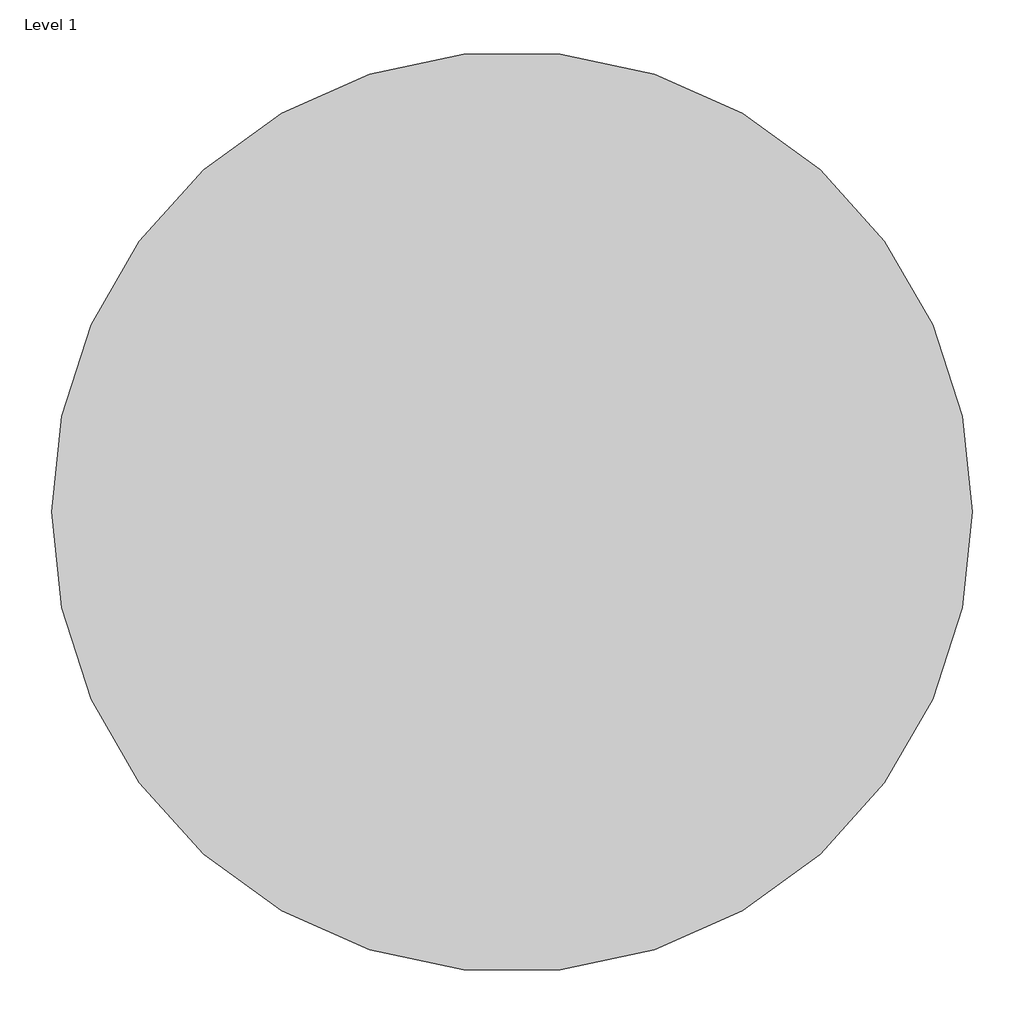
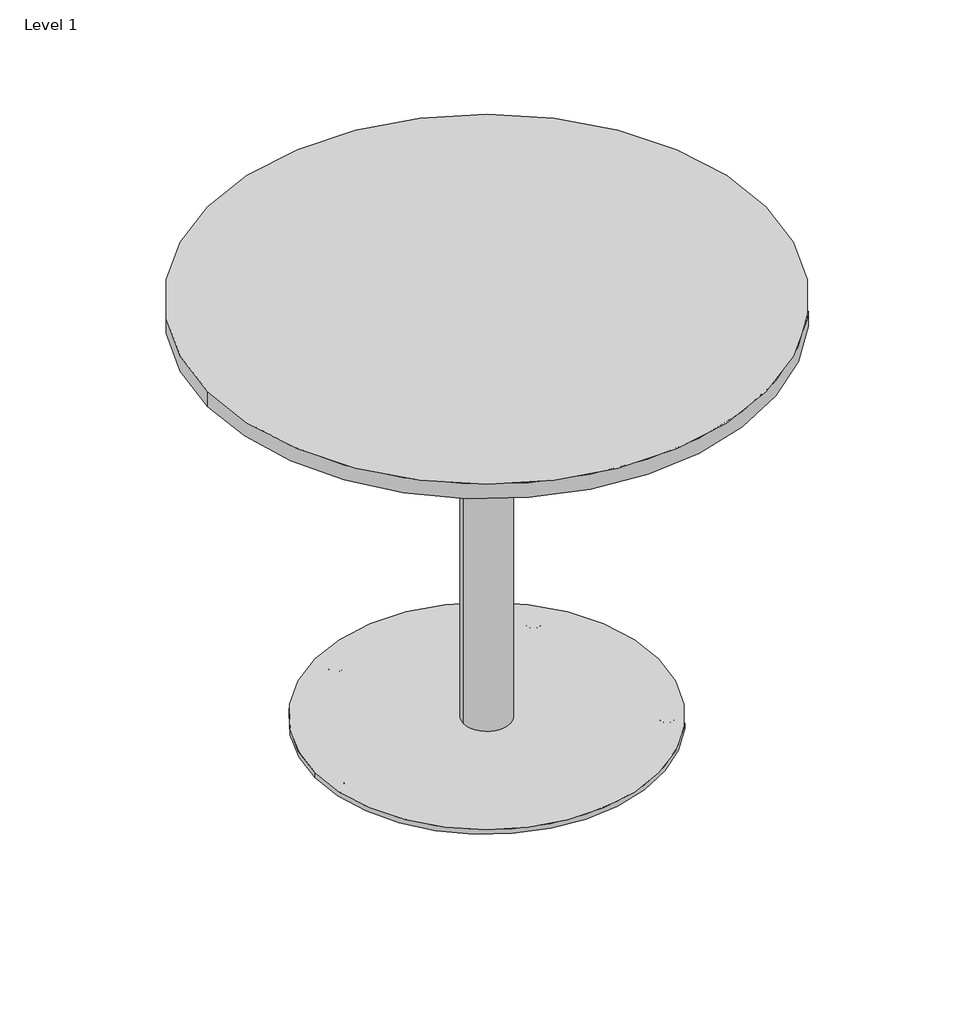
# One storey: 1 furniture element.
"""IFC4 building model written with IfcOpenShell, lengths in millimetres."""

import ifcopenshell
import ifcopenshell.guid

model = None  # the IFC model being written
_history = None  # IfcOwnerHistory: only IFC2X3 demands one
_inside = {}  # id of a spatial element -> (the spatial element, [elements in it])
_under = {}  # id of a project, library or spatial element -> (it, [spatial elements below it])
_declared = {}  # id of a project -> (the project, [libraries it declares])
_typed = {}  # id of a type object -> (the type object, [elements of that type])
_made_of = {}  # id of a material, layer set ... -> (it, [elements and type objects made of it])


def new_model(schema):
    """Start an empty IFC model of exactly this schema.

    Asked for "IFC4X3", IfcOpenShell would pick the latest addendum, in which some entities
    have other attributes; the version numbers below select the first issue.
    IFC2X3 requires an IfcOwnerHistory on every rooted entity: one is made here for all.
    """
    global model, _history
    if schema == "IFC4X3":
        model = ifcopenshell.file(schema_version=(4, 3, 0, 0))
    else:
        model = ifcopenshell.file(schema=schema)
    _inside.clear()
    _under.clear()
    _declared.clear()
    _typed.clear()
    _made_of.clear()
    _history = None
    if model.schema == "IFC2X3":
        org = make("IfcOrganization", Name="unknown")
        user = make(
            "IfcPersonAndOrganization",
            ThePerson=make("IfcPerson", FamilyName="unknown"),
            TheOrganization=org,
        )
        app = make(
            "IfcApplication",
            ApplicationDeveloper=org,
            Version="unknown",
            ApplicationFullName="unknown",
            ApplicationIdentifier="unknown",
        )
        _history = make(
            "IfcOwnerHistory",
            OwningUser=user,
            OwningApplication=app,
            ChangeAction="ADDED",
            CreationDate=0,
        )
    return model


def make(cls, **values):
    """One entity of the class cls with the attributes given. An attribute that is None is left unset."""
    return model.create_entity(
        cls, **{name: value for name, value in values.items() if value is not None}
    )


def rooted(cls, **values):
    """An entity with a GlobalId (a new one), such as an element, a storey or a relation."""
    return make(cls, GlobalId=ifcopenshell.guid.new(), OwnerHistory=_history, **values)


def si_unit(unit_type, name, prefix=None):
    """IfcSIUnit, for example si_unit("LENGTHUNIT", "METRE", prefix="MILLI")."""
    return make("IfcSIUnit", UnitType=unit_type, Prefix=prefix, Name=name)


def assignment(units):
    """IfcUnitAssignment: the units of a project."""
    return None if units is None else make("IfcUnitAssignment", Units=units)


def point(xyz):
    """IfcCartesianPoint."""
    return None if xyz is None else make("IfcCartesianPoint", Coordinates=xyz)


def direction(xyz):
    """IfcDirection."""
    return None if xyz is None else make("IfcDirection", DirectionRatios=xyz)


def frame(location, z_axis=None, x_axis=None):
    """IfcAxis2Placement3D, a coordinate frame: its origin and axes. An axis left out is left unset."""
    return make(
        "IfcAxis2Placement3D",
        Location=point(location),
        Axis=direction(z_axis),
        RefDirection=direction(x_axis),
    )


def frame_2d(location, x_axis=None):
    """IfcAxis2Placement2D, a coordinate frame in the plane: its origin and x axis."""
    return make(
        "IfcAxis2Placement2D", Location=point(location), RefDirection=direction(x_axis)
    )


def origin():
    """The frame at (0, 0, 0) with its axes left unset."""
    return frame((0.0, 0.0, 0.0))


def origin_2d():
    """The frame at (0, 0) in the plane with its x axis left unset."""
    return frame_2d((0.0, 0.0))


def place(relative_to, where):
    """IfcLocalPlacement: puts the frame where relative to a parent placement (None: the world)."""
    return make(
        "IfcLocalPlacement", PlacementRelTo=relative_to, RelativePlacement=where
    )


def context(
    kind, dimensions, precision=None, world=None, true_north=None, identifier=None
):
    """IfcGeometricRepresentationContext, for example the 3D "Model" context."""
    return make(
        "IfcGeometricRepresentationContext",
        ContextIdentifier=identifier,
        ContextType=kind,
        CoordinateSpaceDimension=dimensions,
        Precision=precision,
        WorldCoordinateSystem=world,
        TrueNorth=true_north,
    )


def project(units=None, contexts=None):
    """IfcProject with its units and contexts."""
    return rooted(
        "IfcProject",
        Name="project",
        RepresentationContexts=contexts,
        UnitsInContext=assignment(units),
    )


def spatial(cls, under=None, at=None, **own):
    """A site, building, storey or space (cls), placed at a placement, below another one or the project."""
    s = rooted(cls, ObjectPlacement=at, **own)
    if under is not None:
        _under.setdefault(under.id(), (under, []))[1].append(s)
    return s


def polyline(points):
    """IfcPolyline through the points."""
    return make("IfcPolyline", Points=[point(p) for p in points])


def circle_curve(where, radius):
    """IfcCircle in the frame where."""
    return make("IfcCircle", Position=where, Radius=radius)


def ellipse_curve(where, semi_axis1, semi_axis2):
    """IfcEllipse in the frame where."""
    return make(
        "IfcEllipse", Position=where, SemiAxis1=semi_axis1, SemiAxis2=semi_axis2
    )


def trimmed(basis, trim1, trim2, sense, master):
    """IfcTrimmedCurve: the piece of a basis curve between two trims."""
    return make(
        "IfcTrimmedCurve",
        BasisCurve=basis,
        Trim1=trim1,
        Trim2=trim2,
        SenseAgreement=sense,
        MasterRepresentation=master,
    )


def segment(curve, same_sense, transition):
    """IfcCompositeCurveSegment."""
    return make(
        "IfcCompositeCurveSegment",
        Transition=transition,
        SameSense=same_sense,
        ParentCurve=curve,
    )


def composite_curve(segments, self_intersect=None):
    """IfcCompositeCurve: segments joined end to end."""
    return make("IfcCompositeCurve", Segments=segments, SelfIntersect=self_intersect)


def outline(outer, holes=None, kind="AREA"):
    """IfcArbitraryClosedProfileDef: a profile drawn as a closed curve; with holes, ...WithVoids."""
    if holes is None:
        return make("IfcArbitraryClosedProfileDef", ProfileType=kind, OuterCurve=outer)
    return make(
        "IfcArbitraryProfileDefWithVoids",
        ProfileType=kind,
        OuterCurve=outer,
        InnerCurves=holes,
    )


def extrude(swept, where, along, depth):
    """IfcExtrudedAreaSolid: the profile swept, set in the frame where, extruded along a direction by depth."""
    return make(
        "IfcExtrudedAreaSolid",
        SweptArea=swept,
        Position=where,
        ExtrudedDirection=direction(along),
        Depth=depth,
    )


def shape(context_of_items, identifier, shape_type, items):
    """IfcShapeRepresentation: the items that make up one representation, for example the "Body"."""
    return make(
        "IfcShapeRepresentation",
        ContextOfItems=context_of_items,
        RepresentationIdentifier=identifier,
        RepresentationType=shape_type,
        Items=items,
    )


def source(mapping_origin, context_of_items, identifier, shape_type, items):
    """IfcRepresentationMap: a shape defined once, which mapped items show again and again."""
    return make(
        "IfcRepresentationMap",
        MappingOrigin=mapping_origin,
        MappedRepresentation=shape(context_of_items, identifier, shape_type, items),
    )


def transform(
    local_origin,
    x_axis=None,
    y_axis=None,
    z_axis=None,
    scale=None,
    scale2=None,
    scale3=None,
    uniform=True,
):
    """IfcCartesianTransformationOperator3D, or its non-uniform kind. x_axis, y_axis, z_axis: its Axis1, 2, 3."""
    if uniform:
        return make(
            "IfcCartesianTransformationOperator3D",
            Axis1=direction(x_axis),
            Axis2=direction(y_axis),
            LocalOrigin=point(local_origin),
            Scale=scale,
            Axis3=direction(z_axis),
        )
    return make(
        "IfcCartesianTransformationOperator3DnonUniform",
        Axis1=direction(x_axis),
        Axis2=direction(y_axis),
        LocalOrigin=point(local_origin),
        Scale=scale,
        Axis3=direction(z_axis),
        Scale2=scale2,
        Scale3=scale3,
    )


def mapped(mapping_source, mapping_target):
    """IfcMappedItem: shows the shape of a source again, moved by a transform."""
    return make(
        "IfcMappedItem", MappingSource=mapping_source, MappingTarget=mapping_target
    )


def made_of(thing, what):
    """Note that an element or type object is made of a material, layer set ...; save() writes the relation."""
    if what is not None:
        _made_of.setdefault(what.id(), (what, []))[1].append(thing)
    return thing


def element(
    cls,
    number,
    at=None,
    inside=None,
    cuts=None,
    type_object=None,
    material=None,
    context=None,
    identifier="Body",
    shape_type=None,
    held_by="IfcProductDefinitionShape",
    body=None,
    shapes=None,
    **own,
):
    """One element of the class cls, such as IfcWall. Its Tag is "e" and its number.

    at: its placement. inside: the storey or other place that contains it. cuts: it is an
    opening in that element (IfcRelVoidsElement). A single representation is given by context,
    identifier, shape_type and body (its items); several are given by shapes. held_by: the class
    of the entity that holds the representations. save() writes the other relations.
    """
    e = rooted(cls, Tag="e%d" % number, ObjectPlacement=at, **own)
    if body is not None:
        shapes = [shape(context, identifier, shape_type, body)]
    if shapes is not None:
        e.Representation = make(held_by, Representations=shapes)
    if inside is not None:
        _inside.setdefault(inside.id(), (inside, []))[1].append(e)
    if cuts is not None:
        rooted(
            "IfcRelVoidsElement", RelatingBuildingElement=cuts, RelatedOpeningElement=e
        )
    if type_object is not None:
        _typed.setdefault(type_object.id(), (type_object, []))[1].append(e)
    return made_of(e, material)


def aggregate(whole, parts):
    """IfcRelAggregates: a whole, such as a stair, and the parts it consists of."""
    return rooted("IfcRelAggregates", RelatingObject=whole, RelatedObjects=parts)


def save(model, path):
    """Write the relations noted so far, then the file.

    IfcRelAggregates (storeys below a building ...), IfcRelContainedInSpatialStructure (elements
    in a storey), IfcRelDefinesByType, IfcRelAssociatesMaterial and IfcRelDeclares: one each for
    every whole, place, type object, material and project.
    """
    for whole, parts in _under.values():
        aggregate(whole, parts)
    for where, things in _inside.values():
        rooted(
            "IfcRelContainedInSpatialStructure",
            RelatedElements=things,
            RelatingStructure=where,
        )
    for kind, things in _typed.values():
        rooted("IfcRelDefinesByType", RelatedObjects=things, RelatingType=kind)
    for what, things in _made_of.values():
        rooted("IfcRelAssociatesMaterial", RelatedObjects=things, RelatingMaterial=what)
    for by, libraries in _declared.values():
        rooted("IfcRelDeclares", RelatingContext=by, RelatedDefinitions=libraries)
    model.write(path)


def plane_surface(at):
    """IfcPlane: the flat surface through the origin of the frame at, square to its z axis."""
    return make("IfcPlane", Position=at)


def cylinder_surface(at, radius):
    """IfcCylindricalSurface: all points at the distance radius from the z axis of the frame at."""
    return make("IfcCylindricalSurface", Position=at, Radius=radius)


def revolved_surface(curve, axis_point, axis_direction):
    """IfcSurfaceOfRevolution: the curve turned about the line through axis_point along axis_direction."""
    return make(
        "IfcSurfaceOfRevolution",
        SweptCurve=make("IfcArbitraryOpenProfileDef", ProfileType="CURVE", Curve=curve),
        AxisPosition=make("IfcAxis1Placement", Location=point(axis_point), Axis=direction(axis_direction)),
    )


def advanced_brep(points, edges, surfaces, faces):
    """IfcAdvancedBrep: a solid bounded by faces that lie on surfaces and meet in shared edges.

    An edge is (start, end): straight between two places in points (the first is 0);
    or (start, end, curve); or (start, end, curve, False) where it runs against its curve.
    A face is (place in surfaces, loops), or (place, loops, False) where it looks against
    its surface's normal. A loop lists edges by number (the first is 1), with a minus sign
    where the edge is run from its end to its start. The first loop is the outer one.
    """
    corners = [point(p) for p in points]
    vertices = [make("IfcVertexPoint", VertexGeometry=c) for c in corners]
    made = []
    for start, end, *more in edges:
        made.append(
            make(
                "IfcEdgeCurve",
                EdgeStart=vertices[start],
                EdgeEnd=vertices[end],
                EdgeGeometry=more[0] if more else make("IfcPolyline", Points=[corners[start], corners[end]]),
                SameSense=more[1] if len(more) > 1 else True,
            )
        )
    hull = []
    for where, loops, *sense in faces:
        bounds = []
        for j, loop in enumerate(loops):
            ring = [make("IfcOrientedEdge", EdgeElement=made[abs(k) - 1], Orientation=k > 0) for k in loop]
            bounds.append(
                make(
                    "IfcFaceOuterBound" if j == 0 else "IfcFaceBound",
                    Bound=make("IfcEdgeLoop", EdgeList=ring),
                    Orientation=True,
                )
            )
        hull.append(make("IfcAdvancedFace", Bounds=bounds, FaceSurface=surfaces[where], SameSense=sense[0] if sense else True))
    return make("IfcAdvancedBrep", Outer=make("IfcClosedShell", CfsFaces=hull))


def furniture_2d7424ca(model_context):
    return source(origin(), model_context, "Body", "SolidModel", [
        advanced_brep(
        [(222.7428677, -113.4988573, 12.0), (219.5466225, -111.1766493, 12.0), (225.9391129, -115.8210653, 12.0), (228.6860049, -117.816799, 0.0), (216.7997306, -109.1809156, 0.0), (222.7428677, -113.4988573, 0.0), (232.7310899, -120.7557252, 5.0), (212.7546456, -106.2419894, 5.0), (232.7310899, -120.7557252, 7.0000003), (212.7546456, -106.2419894, 7.0000003), (225.9391129, -115.8210653, 7.0000003), (219.5466225, -111.1766493, 7.0000003)],
        [
            (0, 1),
            (1, 2, circle_curve(frame((222.7428677, -113.4988573, 12.0), z_axis=(0.0, 0.0, 1.0), x_axis=(-0.8090170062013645, 0.5877852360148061, 0.0)), 3.9507763)),
            (2, 0),
            (2, 1, circle_curve(frame((222.7428677, -113.4988573, 12.0), z_axis=(0.0, 0.0, 1.0), x_axis=(-0.8090170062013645, 0.5877852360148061, 0.0)), 3.9507763)),
            (3, 4, circle_curve(frame((222.7428677, -113.4988573, 0.0), z_axis=(0.0, 0.0, -1.0), x_axis=(-0.8090170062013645, 0.5877852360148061, 0.0)), 7.3461214)),
            (4, 5),
            (5, 3),
            (4, 3, circle_curve(frame((222.7428677, -113.4988573, 0.0), z_axis=(0.0, 0.0, -1.0), x_axis=(-0.8090170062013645, 0.5877852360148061, 0.0)), 7.3461214)),
            (6, 7, circle_curve(frame((222.7428677, -113.4988573, 5.0), z_axis=(0.0, 0.0, -1.0), x_axis=(-0.8090170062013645, 0.5877852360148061, 0.0)), 12.3461214)),
            (7, 4, circle_curve(frame((216.7997306, -109.1809156, 5.0), z_axis=(-0.5877852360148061, -0.8090170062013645, 0.0), x_axis=(-0.8090170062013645, 0.5877852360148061, 0.0)), 5.0)),
            (3, 6, circle_curve(frame((228.6860049, -117.816799, 5.0), z_axis=(-0.5877852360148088, -0.8090170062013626, 0.0), x_axis=(0.8090170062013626, -0.5877852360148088, 0.0)), 5.0)),
            (7, 6, circle_curve(frame((222.7428677, -113.4988573, 5.0), z_axis=(0.0, 0.0, -1.0), x_axis=(-0.8090170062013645, 0.5877852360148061, 0.0)), 12.3461214)),
            (8, 9, circle_curve(frame((222.7428677, -113.4988573, 7.0000003), z_axis=(0.0, 0.0, -1.0), x_axis=(-0.8090170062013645, 0.5877852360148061, 0.0)), 12.3461214)),
            (9, 7),
            (6, 8),
            (9, 8, circle_curve(frame((222.7428677, -113.4988573, 7.0000003), z_axis=(0.0, 0.0, -1.0), x_axis=(-0.8090170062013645, 0.5877852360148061, 0.0)), 12.3461214)),
            (10, 11, circle_curve(frame((222.7428677, -113.4988573, 7.0000003), z_axis=(0.0, 0.0, -1.0), x_axis=(-0.8090170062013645, 0.5877852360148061, 0.0)), 3.9507763)),
            (11, 9),
            (8, 10),
            (11, 10, circle_curve(frame((222.7428677, -113.4988573, 7.0000003), z_axis=(0.0, 0.0, -1.0), x_axis=(-0.8090170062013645, 0.5877852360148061, 0.0)), 3.9507763)),
            (1, 11),
            (10, 2),
        ],
        [
            plane_surface(frame((222.7428677, -113.4988573, 12.0), z_axis=(0.0, 0.0, 1.0), x_axis=(-0.8090170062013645, 0.5877852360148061, 0.0))),
            plane_surface(frame((222.7428677, -113.4988573, 0.0), z_axis=(0.0, 0.0, -1.0), x_axis=(-0.8090170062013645, 0.5877852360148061, 0.0))),
            revolved_surface(trimmed(ellipse_curve(frame((216.7997306, -109.1809156, 5.0), z_axis=(0.5877852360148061, 0.8090170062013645, 0.0), x_axis=(-0.8090170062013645, 0.5877852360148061, 0.0)), 5.0, 5.0), [point((216.7997306, -109.1809156, 0.0))], [point((212.7546456, -106.2419894, 5.0))], True, "CARTESIAN"), (222.7428677, -113.4988573, 12.0), (0.0, 0.0, 1.0)),
            cylinder_surface(frame((222.7428677, -113.4988573, 12.0), z_axis=(0.0, 0.0, 1.0), x_axis=(-0.8090170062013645, 0.5877852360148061, 0.0)), 12.3461214),
            plane_surface(frame((222.7428677, -113.4988573, 7.0000003), z_axis=(0.0, 0.0, 1.0), x_axis=(-0.8090170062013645, 0.5877852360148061, 0.0))),
            cylinder_surface(frame((222.7428677, -113.4988573, 12.0), z_axis=(0.0, 0.0, 1.0), x_axis=(-0.8090170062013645, 0.5877852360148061, 0.0)), 3.9507763),
        ],
        [
            (0, [[1, 2, 3]]),
            (0, [[-3, 4, -1]]),
            (1, [[5, 6, 7]]),
            (1, [[8, -7, -6]]),
            (2, [[9, 10, -5, 11]]),
            (2, [[12, -11, -8, -10]]),
            (3, [[13, 14, -9, 15]]),
            (3, [[16, -15, -12, -14]]),
            (4, [[17, 18, -13, 19]]),
            (4, [[20, -19, -16, -18]]),
            (5, [[-2, 21, -17, 22]]),
            (5, [[-4, -22, -20, -21]]),
        ],
    ),
        advanced_brep(
        [(176.7751497, 176.7679897, 12.0), (173.5789047, 174.4457814, 12.0), (179.9713947, 179.090198, 12.0), (182.7182865, 181.085932, 0.0), (170.832013, 172.4500474, 0.0), (176.7751497, 176.7679897, 0.0), (186.7633712, 184.0248585, 5.0), (166.7869282, 169.5111209, 5.0), (186.7633712, 184.0248585, 7.0000003), (166.7869282, 169.5111209, 7.0000003), (179.9713947, 179.090198, 7.0000003), (173.5789047, 174.4457814, 7.0000003)],
        [
            (0, 1),
            (1, 2, circle_curve(frame((176.7751497, 176.7679897, 12.0), z_axis=(0.0, 0.0, 1.0), x_axis=(-0.8090169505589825, -0.5877853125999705, 0.0)), 3.9507763)),
            (2, 0),
            (2, 1, circle_curve(frame((176.7751497, 176.7679897, 12.0), z_axis=(0.0, 0.0, 1.0), x_axis=(-0.8090169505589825, -0.5877853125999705, 0.0)), 3.9507763)),
            (3, 4, circle_curve(frame((176.7751497, 176.7679897, 0.0), z_axis=(0.0, 0.0, -1.0), x_axis=(-0.8090169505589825, -0.5877853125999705, 0.0)), 7.3461214)),
            (4, 5),
            (5, 3),
            (4, 3, circle_curve(frame((176.7751497, 176.7679897, 0.0), z_axis=(0.0, 0.0, -1.0), x_axis=(-0.8090169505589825, -0.5877853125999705, 0.0)), 7.3461214)),
            (6, 7, circle_curve(frame((176.7751497, 176.7679897, 5.0), z_axis=(0.0, 0.0, -1.0), x_axis=(-0.8090169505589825, -0.5877853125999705, 0.0)), 12.3461214)),
            (7, 4, circle_curve(frame((170.832013, 172.4500474, 5.0), z_axis=(0.5877853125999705, -0.8090169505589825, 0.0), x_axis=(-0.8090169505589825, -0.5877853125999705, 0.0)), 5.0)),
            (3, 6, circle_curve(frame((182.7182865, 181.085932, 5.0), z_axis=(0.5877853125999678, -0.8090169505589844, 0.0), x_axis=(0.8090169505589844, 0.5877853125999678, 0.0)), 5.0)),
            (7, 6, circle_curve(frame((176.7751497, 176.7679897, 5.0), z_axis=(0.0, 0.0, -1.0), x_axis=(-0.8090169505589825, -0.5877853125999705, 0.0)), 12.3461214)),
            (8, 9, circle_curve(frame((176.7751497, 176.7679897, 7.0000003), z_axis=(0.0, 0.0, -1.0), x_axis=(-0.8090169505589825, -0.5877853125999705, 0.0)), 12.3461214)),
            (9, 7),
            (6, 8),
            (9, 8, circle_curve(frame((176.7751497, 176.7679897, 7.0000003), z_axis=(0.0, 0.0, -1.0), x_axis=(-0.8090169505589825, -0.5877853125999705, 0.0)), 12.3461214)),
            (10, 11, circle_curve(frame((176.7751497, 176.7679897, 7.0000003), z_axis=(0.0, 0.0, -1.0), x_axis=(-0.8090169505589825, -0.5877853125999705, 0.0)), 3.9507763)),
            (11, 9),
            (8, 10),
            (11, 10, circle_curve(frame((176.7751497, 176.7679897, 7.0000003), z_axis=(0.0, 0.0, -1.0), x_axis=(-0.8090169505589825, -0.5877853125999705, 0.0)), 3.9507763)),
            (1, 11),
            (10, 2),
        ],
        [
            plane_surface(frame((176.7751497, 176.7679897, 12.0), z_axis=(0.0, 0.0, 1.0), x_axis=(-0.8090169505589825, -0.5877853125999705, 0.0))),
            plane_surface(frame((176.7751497, 176.7679897, 0.0), z_axis=(0.0, 0.0, -1.0), x_axis=(-0.8090169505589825, -0.5877853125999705, 0.0))),
            revolved_surface(trimmed(ellipse_curve(frame((170.832013, 172.4500474, 5.0), z_axis=(-0.5877853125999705, 0.8090169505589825, 0.0), x_axis=(-0.8090169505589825, -0.5877853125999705, 0.0)), 5.0, 5.0), [point((170.832013, 172.4500474, 0.0))], [point((166.7869282, 169.5111209, 5.0))], True, "CARTESIAN"), (176.7751497, 176.7679897, 12.0), (0.0, 0.0, 1.0)),
            cylinder_surface(frame((176.7751497, 176.7679897, 12.0), z_axis=(0.0, 0.0, 1.0), x_axis=(-0.8090169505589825, -0.5877853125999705, 0.0)), 12.3461214),
            plane_surface(frame((176.7751497, 176.7679897, 7.0000003), z_axis=(0.0, 0.0, 1.0), x_axis=(-0.8090169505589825, -0.5877853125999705, 0.0))),
            cylinder_surface(frame((176.7751497, 176.7679897, 12.0), z_axis=(0.0, 0.0, 1.0), x_axis=(-0.8090169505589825, -0.5877853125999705, 0.0)), 3.9507763),
        ],
        [
            (0, [[1, 2, 3]]),
            (0, [[-3, 4, -1]]),
            (1, [[5, 6, 7]]),
            (1, [[8, -7, -6]]),
            (2, [[9, 10, -5, 11]]),
            (2, [[12, -11, -8, -10]]),
            (3, [[13, 14, -9, 15]]),
            (3, [[16, -15, -12, -14]]),
            (4, [[17, 18, -13, 19]]),
            (4, [[20, -19, -16, -18]]),
            (5, [[-2, 21, -17, 22]]),
            (5, [[-4, -22, -20, -21]]),
        ],
    ),
        advanced_brep(
        [(-113.4898209, 222.747472, 12.0), (-112.2689636, 218.9900606, 12.0), (-114.7106781, 226.5048835, 12.0), (-115.7598977, 229.7340485, 0.0), (-111.2197441, 215.7608956, 0.0), (-113.4898209, 222.747472, 0.0), (-117.304983, 234.489331, 5.0), (-109.6746588, 211.0056131, 5.0), (-117.304983, 234.489331, 7.0000003), (-109.6746588, 211.0056131, 7.0000003), (-114.7106781, 226.5048835, 7.0000003), (-112.2689636, 218.9900606, 7.0000003)],
        [
            (0, 1),
            (1, 2, circle_curve(frame((-113.4898209, 222.747472, 12.0), z_axis=(0.0, 0.0, 1.0), x_axis=(0.3090170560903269, -0.951056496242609, 0.0)), 3.9507763)),
            (2, 0),
            (2, 1, circle_curve(frame((-113.4898209, 222.747472, 12.0), z_axis=(0.0, 0.0, 1.0), x_axis=(0.3090170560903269, -0.951056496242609, 0.0)), 3.9507763)),
            (3, 4, circle_curve(frame((-113.4898209, 222.747472, 0.0), z_axis=(0.0, 0.0, -1.0), x_axis=(0.3090170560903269, -0.951056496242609, 0.0)), 7.3461214)),
            (4, 5),
            (5, 3),
            (4, 3, circle_curve(frame((-113.4898209, 222.747472, 0.0), z_axis=(0.0, 0.0, -1.0), x_axis=(0.3090170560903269, -0.951056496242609, 0.0)), 7.3461214)),
            (6, 7, circle_curve(frame((-113.4898209, 222.747472, 5.0), z_axis=(0.0, 0.0, -1.0), x_axis=(0.3090170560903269, -0.951056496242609, 0.0)), 12.3461214)),
            (7, 4, circle_curve(frame((-111.2197441, 215.7608956, 5.0), z_axis=(0.951056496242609, 0.3090170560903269, 0.0), x_axis=(0.3090170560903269, -0.951056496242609, 0.0)), 5.0)),
            (3, 6, circle_curve(frame((-115.7598977, 229.7340485, 5.0), z_axis=(0.95105649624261, 0.30901705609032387, 0.0), x_axis=(-0.30901705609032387, 0.95105649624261, 0.0)), 5.0)),
            (7, 6, circle_curve(frame((-113.4898209, 222.747472, 5.0), z_axis=(0.0, 0.0, -1.0), x_axis=(0.3090170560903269, -0.951056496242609, 0.0)), 12.3461214)),
            (8, 9, circle_curve(frame((-113.4898209, 222.747472, 7.0000003), z_axis=(0.0, 0.0, -1.0), x_axis=(0.3090170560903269, -0.951056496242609, 0.0)), 12.3461214)),
            (9, 7),
            (6, 8),
            (9, 8, circle_curve(frame((-113.4898209, 222.747472, 7.0000003), z_axis=(0.0, 0.0, -1.0), x_axis=(0.3090170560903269, -0.951056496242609, 0.0)), 12.3461214)),
            (10, 11, circle_curve(frame((-113.4898209, 222.747472, 7.0000003), z_axis=(0.0, 0.0, -1.0), x_axis=(0.3090170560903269, -0.951056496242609, 0.0)), 3.9507763)),
            (11, 9),
            (8, 10),
            (11, 10, circle_curve(frame((-113.4898209, 222.747472, 7.0000003), z_axis=(0.0, 0.0, -1.0), x_axis=(0.3090170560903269, -0.951056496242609, 0.0)), 3.9507763)),
            (1, 11),
            (10, 2),
        ],
        [
            plane_surface(frame((-113.4898209, 222.747472, 12.0), z_axis=(0.0, 0.0, 1.0), x_axis=(0.3090170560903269, -0.951056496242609, 0.0))),
            plane_surface(frame((-113.4898209, 222.747472, 0.0), z_axis=(0.0, 0.0, -1.0), x_axis=(0.3090170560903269, -0.951056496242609, 0.0))),
            revolved_surface(trimmed(ellipse_curve(frame((-111.2197441, 215.7608956, 5.0), z_axis=(-0.951056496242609, -0.3090170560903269, 0.0), x_axis=(0.3090170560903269, -0.951056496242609, 0.0)), 5.0, 5.0), [point((-111.2197441, 215.7608956, 0.0))], [point((-109.6746588, 211.0056131, 5.0))], True, "CARTESIAN"), (-113.4898209, 222.747472, 12.0), (0.0, 0.0, 1.0)),
            cylinder_surface(frame((-113.4898209, 222.747472, 12.0), z_axis=(0.0, 0.0, 1.0), x_axis=(0.3090170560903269, -0.951056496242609, 0.0)), 12.3461214),
            plane_surface(frame((-113.4898209, 222.747472, 7.0000003), z_axis=(0.0, 0.0, 1.0), x_axis=(0.3090170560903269, -0.951056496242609, 0.0))),
            cylinder_surface(frame((-113.4898209, 222.747472, 12.0), z_axis=(0.0, 0.0, 1.0), x_axis=(0.3090170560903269, -0.951056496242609, 0.0)), 3.9507763),
        ],
        [
            (0, [[1, 2, 3]]),
            (0, [[-3, 4, -1]]),
            (1, [[5, 6, 7]]),
            (1, [[8, -7, -6]]),
            (2, [[9, 10, -5, 11]]),
            (2, [[12, -11, -8, -10]]),
            (3, [[13, 14, -9, 15]]),
            (3, [[16, -15, -12, -14]]),
            (4, [[17, 18, -13, 19]]),
            (4, [[20, -19, -16, -18]]),
            (5, [[-2, 21, -17, 22]]),
            (5, [[-4, -22, -20, -21]]),
        ],
    ),
        advanced_brep(
        [(-39.1024633, -250.8664969, 12.0), (-39.1024633, -242.9649444, 12.0), (-39.1024633, -246.9157206, 12.0), (-39.1024633, -246.9157206, 0.0), (-39.1024633, -239.5695992, 0.0), (-39.1024633, -254.2618421, 0.0), (-39.1024633, -234.5695992, 5.0), (-39.1024633, -259.2618421, 5.0), (-39.1024633, -234.5695992, 7.0000003), (-39.1024633, -259.2618421, 7.0000003), (-39.1024633, -242.9649444, 7.0000003), (-39.1024633, -250.8664969, 7.0000003)],
        [
            (0, 1, circle_curve(frame((-39.1024633, -246.9157206, 12.0), z_axis=(0.0, 0.0, 1.0), x_axis=(0.0, 1.0, 0.0)), 3.9507763)),
            (1, 2),
            (2, 0),
            (1, 0, circle_curve(frame((-39.1024633, -246.9157206, 12.0), z_axis=(0.0, 0.0, 1.0), x_axis=(0.0, 1.0, 0.0)), 3.9507763)),
            (3, 4),
            (4, 5, circle_curve(frame((-39.1024633, -246.9157206, 0.0), z_axis=(0.0, 0.0, -1.0), x_axis=(0.0, 1.0, 0.0)), 7.3461214)),
            (5, 3),
            (5, 4, circle_curve(frame((-39.1024633, -246.9157206, 0.0), z_axis=(0.0, 0.0, -1.0), x_axis=(0.0, 1.0, 0.0)), 7.3461214)),
            (4, 6, circle_curve(frame((-39.1024633, -239.5695992, 5.0), z_axis=(1.0, 0.0, 0.0), x_axis=(0.0, 1.0, 0.0)), 5.0)),
            (6, 7, circle_curve(frame((-39.1024633, -246.9157206, 5.0), z_axis=(0.0, 0.0, -1.0), x_axis=(0.0, 1.0, 0.0)), 12.3461214)),
            (7, 5, circle_curve(frame((-39.1024633, -254.2618421, 5.0), z_axis=(1.0, 0.0, 0.0), x_axis=(0.0, -1.0, 0.0)), 5.0)),
            (7, 6, circle_curve(frame((-39.1024633, -246.9157206, 5.0), z_axis=(0.0, 0.0, -1.0), x_axis=(0.0, 1.0, 0.0)), 12.3461214)),
            (6, 8),
            (8, 9, circle_curve(frame((-39.1024633, -246.9157206, 7.0000003), z_axis=(0.0, 0.0, -1.0), x_axis=(0.0, 1.0, 0.0)), 12.3461214)),
            (9, 7),
            (9, 8, circle_curve(frame((-39.1024633, -246.9157206, 7.0000003), z_axis=(0.0, 0.0, -1.0), x_axis=(0.0, 1.0, 0.0)), 12.3461214)),
            (8, 10),
            (10, 11, circle_curve(frame((-39.1024633, -246.9157206, 7.0000003), z_axis=(0.0, 0.0, -1.0), x_axis=(0.0, 1.0, 0.0)), 3.9507763)),
            (11, 9),
            (11, 10, circle_curve(frame((-39.1024633, -246.9157206, 7.0000003), z_axis=(0.0, 0.0, -1.0), x_axis=(0.0, 1.0, 0.0)), 3.9507763)),
            (10, 1),
            (0, 11),
        ],
        [
            plane_surface(frame((-39.1024633, -246.9157206, 12.0), z_axis=(0.0, 0.0, 1.0), x_axis=(0.0, 1.0, 0.0))),
            plane_surface(frame((-39.1024633, -246.9157206, 0.0), z_axis=(0.0, 0.0, -1.0), x_axis=(0.0, 1.0, 0.0))),
            revolved_surface(trimmed(ellipse_curve(frame((-39.1024633, -239.5695992, 5.0), z_axis=(-1.0, 0.0, 0.0), x_axis=(0.0, 1.0, 0.0)), 5.0, 5.0), [point((-39.1024633, -234.5695992, 5.0))], [point((-39.1024633, -239.5695992, 0.0))], True, "CARTESIAN"), (-39.1024633, -246.9157206, 12.0), (0.0, 0.0, -1.0)),
            cylinder_surface(frame((-39.1024633, -246.9157206, 12.0), z_axis=(0.0, 0.0, -1.0), x_axis=(0.0, 1.0, 0.0)), 12.3461214),
            plane_surface(frame((-39.1024633, -246.9157206, 7.0000003), z_axis=(0.0, 0.0, 1.0), x_axis=(0.0, 1.0, 0.0))),
            cylinder_surface(frame((-39.1024633, -246.9157206, 12.0), z_axis=(0.0, 0.0, -1.0), x_axis=(0.0, 1.0, 0.0)), 3.9507763),
        ],
        [
            (0, [[1, 2, 3]]),
            (0, [[4, -3, -2]]),
            (1, [[5, 6, 7]]),
            (1, [[-7, 8, -5]]),
            (2, [[-6, 9, 10, 11]]),
            (2, [[-8, -11, 12, -9]]),
            (3, [[-10, 13, 14, 15]]),
            (3, [[-12, -15, 16, -13]]),
            (4, [[-14, 17, 18, 19]]),
            (4, [[-16, -19, 20, -17]]),
            (5, [[-18, 21, -1, 22]]),
            (5, [[-20, -22, -4, -21]]),
        ],
    ),
        advanced_brep(
        [(-246.9157206, -39.1024633, 12.0), (-242.9649444, -39.1024633, 12.0), (-250.8664969, -39.1024633, 12.0), (-254.2618421, -39.1024633, 0.0), (-239.5695992, -39.1024633, 0.0), (-246.9157206, -39.1024633, 0.0), (-259.2618421, -39.1024633, 5.0), (-234.5695992, -39.1024633, 5.0), (-259.2618421, -39.1024633, 7.0000003), (-234.5695992, -39.1024633, 7.0000003), (-250.8664969, -39.1024633, 7.0000003), (-242.9649444, -39.1024633, 7.0000003)],
        [
            (0, 1),
            (1, 2, circle_curve(frame((-246.9157206, -39.1024633, 12.0), z_axis=(0.0, 0.0, 1.0), x_axis=(1.0, 0.0, 0.0)), 3.9507763)),
            (2, 0),
            (2, 1, circle_curve(frame((-246.9157206, -39.1024633, 12.0), z_axis=(0.0, 0.0, 1.0), x_axis=(1.0, 0.0, 0.0)), 3.9507763)),
            (3, 4, circle_curve(frame((-246.9157206, -39.1024633, 0.0), z_axis=(0.0, 0.0, -1.0), x_axis=(1.0, 0.0, 0.0)), 7.3461214)),
            (4, 5),
            (5, 3),
            (4, 3, circle_curve(frame((-246.9157206, -39.1024633, 0.0), z_axis=(0.0, 0.0, -1.0), x_axis=(1.0, 0.0, 0.0)), 7.3461214)),
            (6, 7, circle_curve(frame((-246.9157206, -39.1024633, 5.0), z_axis=(0.0, 0.0, -1.0), x_axis=(1.0, 0.0, 0.0)), 12.3461214)),
            (7, 4, circle_curve(frame((-239.5695992, -39.1024633, 5.0), z_axis=(0.0, 1.0, 0.0), x_axis=(1.0, 0.0, 0.0)), 5.0)),
            (3, 6, circle_curve(frame((-254.2618421, -39.1024633, 5.0), z_axis=(0.0, 1.0, 0.0), x_axis=(-1.0, 0.0, 0.0)), 5.0)),
            (7, 6, circle_curve(frame((-246.9157206, -39.1024633, 5.0), z_axis=(0.0, 0.0, -1.0), x_axis=(1.0, 0.0, 0.0)), 12.3461214)),
            (8, 9, circle_curve(frame((-246.9157206, -39.1024633, 7.0000003), z_axis=(0.0, 0.0, -1.0), x_axis=(1.0, 0.0, 0.0)), 12.3461214)),
            (9, 7),
            (6, 8),
            (9, 8, circle_curve(frame((-246.9157206, -39.1024633, 7.0000003), z_axis=(0.0, 0.0, -1.0), x_axis=(1.0, 0.0, 0.0)), 12.3461214)),
            (10, 11, circle_curve(frame((-246.9157206, -39.1024633, 7.0000003), z_axis=(0.0, 0.0, -1.0), x_axis=(1.0, 0.0, 0.0)), 3.9507763)),
            (11, 9),
            (8, 10),
            (11, 10, circle_curve(frame((-246.9157206, -39.1024633, 7.0000003), z_axis=(0.0, 0.0, -1.0), x_axis=(1.0, 0.0, 0.0)), 3.9507763)),
            (1, 11),
            (10, 2),
        ],
        [
            plane_surface(frame((-246.9157206, -39.1024633, 12.0), z_axis=(0.0, 0.0, 1.0), x_axis=(1.0, 0.0, 0.0))),
            plane_surface(frame((-246.9157206, -39.1024633, 0.0), z_axis=(0.0, 0.0, -1.0), x_axis=(1.0, 0.0, 0.0))),
            revolved_surface(trimmed(ellipse_curve(frame((-239.5695992, -39.1024633, 5.0), z_axis=(0.0, -1.0, 0.0), x_axis=(1.0, 0.0, 0.0)), 5.0, 5.0), [point((-239.5695992, -39.1024633, 0.0))], [point((-234.5695992, -39.1024633, 5.0))], True, "CARTESIAN"), (-246.9157206, -39.1024633, 12.0), (0.0, 0.0, 1.0)),
            cylinder_surface(frame((-246.9157206, -39.1024633, 12.0), z_axis=(0.0, 0.0, 1.0), x_axis=(1.0, 0.0, 0.0)), 12.3461214),
            plane_surface(frame((-246.9157206, -39.1024633, 7.0000003), z_axis=(0.0, 0.0, 1.0), x_axis=(1.0, 0.0, 0.0))),
            cylinder_surface(frame((-246.9157206, -39.1024633, 12.0), z_axis=(0.0, 0.0, 1.0), x_axis=(1.0, 0.0, 0.0)), 3.9507763),
        ],
        [
            (0, [[1, 2, 3]]),
            (0, [[-3, 4, -1]]),
            (1, [[5, 6, 7]]),
            (1, [[8, -7, -6]]),
            (2, [[9, 10, -5, 11]]),
            (2, [[12, -11, -8, -10]]),
            (3, [[13, 14, -9, 15]]),
            (3, [[16, -15, -12, -14]]),
            (4, [[17, 18, -13, 19]]),
            (4, [[20, -19, -16, -18]]),
            (5, [[-2, 21, -17, 22]]),
            (5, [[-4, -22, -20, -21]]),
        ],
    ),
        advanced_brep(
        [(-69.8845432, 0.0, 675.0000051), (0.0, 69.8845432, 675.0000051), (69.8845432, 0.0, 675.0000051), (0.0, -69.8845432, 675.0000051), (0.0, 68.4607826, 677.6000051), (-68.4607826, 0.0, 677.6000051), (0.0, -68.4607826, 677.6000051), (68.4607826, 0.0, 677.6000051), (0.0, 130.8360546, 692.3913128), (0.0, 71.8052184, 675.5318419), (-71.8052184, 0.0, 675.5318419), (-130.8360546, 0.0, 692.3913128), (-130.8360546, 0.0, 694.9918771), (0.0, 130.8360546, 694.9918771), (-70.349921, 0.0, 678.1115233), (0.0, 70.349921, 678.1115233), (0.0, -71.8052184, 675.5318419), (0.0, -130.8360546, 692.3913128), (0.0, -130.8360546, 694.9918771), (0.0, -70.349921, 678.1115233), (71.8052184, 0.0, 675.5318419), (130.8360546, 0.0, 692.3913128), (130.8360546, 0.0, 694.9918771), (70.349921, 0.0, 678.1115233)],
        [
            (0, 1),
            (1, 2),
            (2, 3),
            (3, 0),
            (4, 5),
            (5, 6),
            (6, 7),
            (7, 4),
            (8, 9, ellipse_curve(frame((0.0, 132.7432738, 628.950819), z_axis=(1.0, 0.0, 0.0), x_axis=(0.0, -1.0, 0.0)), 89.738676, 63.4548264)),
            (9, 10),
            (10, 11, ellipse_curve(frame((-132.7432738, 0.0, 628.950819), z_axis=(0.0, -1.0, 0.0), x_axis=(-1.0, 0.0, 0.0)), 89.738676, 63.4548264)),
            (11, 8),
            (11, 12),
            (12, 13),
            (13, 8),
            (12, 14, ellipse_curve(frame((-132.7432738, 0.0, 628.950819), z_axis=(0.0, 1.0, 0.0), x_axis=(1.0, 0.0, 0.0)), 93.4156313, 66.0548264)),
            (14, 15),
            (15, 13, ellipse_curve(frame((0.0, 132.7432738, 628.950819), z_axis=(-1.0, 0.0, 0.0), x_axis=(0.0, 1.0, 0.0)), 93.4156313, 66.0548264)),
            (14, 5, ellipse_curve(frame((-68.4607826, 0.0, 679.6000051), z_axis=(0.0, -1.0, 0.0), x_axis=(-1.0, 0.0, 0.0)), 2.8284271, 2.0)),
            (4, 15, ellipse_curve(frame((0.0, 68.4607826, 679.6000051), z_axis=(1.0, 0.0, 0.0), x_axis=(0.0, -1.0, 0.0)), 2.8284271, 2.0)),
            (9, 1, ellipse_curve(frame((0.0, 69.8845432, 677.0000051), z_axis=(-1.0, 0.0, 0.0), x_axis=(0.0, 1.0, 0.0)), 2.8284271, 2.0)),
            (0, 10, ellipse_curve(frame((-69.8845432, 0.0, 677.0000051), z_axis=(0.0, 1.0, 0.0), x_axis=(1.0, 0.0, 0.0)), 2.8284271, 2.0)),
            (10, 16),
            (16, 17, ellipse_curve(frame((0.0, -132.7432738, 628.950819), z_axis=(1.0, 0.0, 0.0), x_axis=(0.0, -1.0, 0.0)), 89.738676, 63.4548264)),
            (17, 11),
            (17, 18),
            (18, 12),
            (18, 19, ellipse_curve(frame((0.0, -132.7432738, 628.950819), z_axis=(-1.0, 0.0, 0.0), x_axis=(0.0, 1.0, 0.0)), 93.4156313, 66.0548264)),
            (19, 14),
            (19, 6, ellipse_curve(frame((0.0, -68.4607826, 679.6000051), z_axis=(1.0, 0.0, 0.0), x_axis=(0.0, -1.0, 0.0)), 2.8284271, 2.0)),
            (3, 16, ellipse_curve(frame((0.0, -69.8845432, 677.0000051), z_axis=(-1.0, 0.0, 0.0), x_axis=(0.0, 1.0, 0.0)), 2.8284271, 2.0)),
            (16, 20),
            (20, 21, ellipse_curve(frame((132.7432738, 0.0, 628.950819), z_axis=(0.0, 1.0, 0.0), x_axis=(1.0, 0.0, 0.0)), 89.738676, 63.4548264)),
            (21, 17),
            (21, 22),
            (22, 18),
            (22, 23, ellipse_curve(frame((132.7432738, 0.0, 628.950819), z_axis=(0.0, -1.0, 0.0), x_axis=(-1.0, 0.0, 0.0)), 93.4156313, 66.0548264)),
            (23, 19),
            (23, 7, ellipse_curve(frame((68.4607826, 0.0, 679.6000051), z_axis=(0.0, 1.0, 0.0), x_axis=(1.0, 0.0, 0.0)), 2.8284271, 2.0)),
            (2, 20, ellipse_curve(frame((69.8845432, 0.0, 677.0000051), z_axis=(0.0, -1.0, 0.0), x_axis=(-1.0, 0.0, 0.0)), 2.8284271, 2.0)),
            (8, 21),
            (20, 9),
            (13, 22),
            (15, 23),
        ],
        [
            plane_surface(frame((64.2017586, 0.0, 675.0000051), z_axis=(0.0, 0.0, -1.0000000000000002), x_axis=(-0.7071067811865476, -0.7071067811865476, 0.0))),
            plane_surface(frame((64.2017586, 0.0, 677.6000051), z_axis=(0.0, 0.0, 1.0000000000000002), x_axis=(0.7071067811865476, 0.7071067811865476, 0.0))),
            revolved_surface(polyline([(-222.48194984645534, 4.645531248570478e-08, 628.950819), (-4.645511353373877e-08, 222.4819498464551, 628.950819)]), (-0.9536096, 131.7896642, 628.950819), (-0.7071067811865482, -0.7071067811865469, 0.0)),
            plane_surface(frame((0.0, 130.8360546, 692.3913128), z_axis=(-0.7071067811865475, 0.7071067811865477, 0.0), x_axis=(-0.7071067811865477, -0.7071067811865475, 0.0))),
            cylinder_surface(frame((-0.9536096, 131.7896642, 628.950819), z_axis=(0.7071067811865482, 0.7071067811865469, 0.0), x_axis=(-0.7071067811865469, 0.7071067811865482, 0.0)), 66.0548264),
            revolved_surface(polyline([(-71.28920971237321, 1.2373178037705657e-08, 679.6000051), (-1.2373121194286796e-08, 71.28920971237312, 679.6000051)]), (31.187636, 99.6484186, 679.6000051), (-0.7071067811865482, -0.7071067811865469, 0.0)),
            cylinder_surface(frame((30.4757557, 100.3602989, 677.0000051), z_axis=(0.7071067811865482, 0.7071067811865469, 0.0), x_axis=(-0.7071067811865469, 0.7071067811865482, 0.0)), 2.0),
            revolved_surface(polyline([(-4.645534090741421e-08, -222.4819498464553, 628.950819), (-222.4819498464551, -4.6455120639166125e-08, 628.950819)]), (-131.7896642, -0.9536096, 628.950819), (0.7071067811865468, -0.7071067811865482, 0.0)),
            plane_surface(frame((-130.8360546, 0.0, 692.3913128), z_axis=(-0.7071067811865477, -0.7071067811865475, 0.0), x_axis=(0.7071067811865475, -0.7071067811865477, 0.0))),
            cylinder_surface(frame((-131.7896642, -0.9536096, 628.950819), z_axis=(-0.7071067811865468, 0.7071067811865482, 0.0), x_axis=(-0.7071067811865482, -0.7071067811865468, 0.0)), 66.0548264),
            revolved_surface(polyline([(-1.2373192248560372e-08, -71.28920971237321, 679.6000051), (-71.28920971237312, -1.2373121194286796e-08, 679.6000051)]), (-99.6484186, 31.187636, 679.6000051), (0.7071067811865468, -0.7071067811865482, 0.0)),
            cylinder_surface(frame((-100.3602989, 30.4757557, 677.0000051), z_axis=(-0.7071067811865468, 0.7071067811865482, 0.0), x_axis=(-0.7071067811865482, -0.7071067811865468, 0.0)), 2.0),
            revolved_surface(polyline([(222.48194984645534, -4.645531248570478e-08, 628.950819), (4.645511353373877e-08, -222.4819498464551, 628.950819)]), (0.9536096, -131.7896642, 628.950819), (0.7071067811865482, 0.7071067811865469, 0.0)),
            plane_surface(frame((0.0, -130.8360546, 692.3913128), z_axis=(0.7071067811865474, -0.7071067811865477, 0.0), x_axis=(0.7071067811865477, 0.7071067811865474, 0.0))),
            cylinder_surface(frame((0.9536096, -131.7896642, 628.950819), z_axis=(-0.7071067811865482, -0.7071067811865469, 0.0), x_axis=(0.7071067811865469, -0.7071067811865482, 0.0)), 66.0548264),
            revolved_surface(polyline([(71.28920971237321, -1.2373178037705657e-08, 679.6000051), (1.2373121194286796e-08, -71.28920971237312, 679.6000051)]), (-31.187636, -99.6484186, 679.6000051), (0.7071067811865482, 0.7071067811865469, 0.0)),
            cylinder_surface(frame((-30.4757557, -100.3602989, 677.0000051), z_axis=(-0.7071067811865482, -0.7071067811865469, 0.0), x_axis=(0.7071067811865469, -0.7071067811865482, 0.0)), 2.0),
            revolved_surface(polyline([(4.645525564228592e-08, 222.48194984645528, 628.950819), (222.48194984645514, 4.645513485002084e-08, 628.950819)]), (131.7896642, 0.9536096, 628.950819), (-0.7071067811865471, 0.707106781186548, 0.0)),
            plane_surface(frame((130.8360546, 0.0, 692.3913128), z_axis=(0.7071067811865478, 0.7071067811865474, 0.0), x_axis=(-0.7071067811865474, 0.7071067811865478, 0.0))),
            cylinder_surface(frame((131.7896642, 0.9536096, 628.950819), z_axis=(0.7071067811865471, -0.707106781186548, 0.0), x_axis=(0.707106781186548, 0.7071067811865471, 0.0)), 66.0548264),
            revolved_surface(polyline([(1.2373135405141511e-08, 71.28920971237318, 679.6000051), (71.28920971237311, 1.2373117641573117e-08, 679.6000051)]), (99.6484186, -31.187636, 679.6000051), (-0.7071067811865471, 0.707106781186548, 0.0)),
            cylinder_surface(frame((100.3602989, -30.4757557, 677.0000051), z_axis=(0.7071067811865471, -0.707106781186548, 0.0), x_axis=(0.707106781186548, 0.7071067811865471, 0.0)), 2.0),
        ],
        [
            (0, [[1, 2, 3, 4]]),
            (1, [[5, 6, 7, 8]]),
            (2, [[9, 10, 11, 12]]),
            (3, [[-12, 13, 14, 15]]),
            (4, [[-14, 16, 17, 18]]),
            (5, [[-17, 19, -5, 20]]),
            (6, [[-10, 21, -1, 22]]),
            (7, [[-11, 23, 24, 25]]),
            (8, [[-13, -25, 26, 27]]),
            (9, [[-16, -27, 28, 29]]),
            (10, [[-19, -29, 30, -6]]),
            (11, [[-22, -4, 31, -23]]),
            (12, [[-24, 32, 33, 34]]),
            (13, [[-26, -34, 35, 36]]),
            (14, [[-28, -36, 37, 38]]),
            (15, [[-30, -38, 39, -7]]),
            (16, [[-31, -3, 40, -32]]),
            (17, [[-9, 41, -33, 42]]),
            (18, [[-15, 43, -35, -41]]),
            (19, [[-18, 44, -37, -43]]),
            (20, [[-20, -8, -39, -44]]),
            (21, [[-21, -42, -40, -2]]),
        ],
    ),
        extrude(outline(composite_curve([segment(trimmed(circle_curve(origin_2d(), 37.3573128), [point((-37.3573128, 0.0))], [point((37.3573128, 0.0))], False, "CARTESIAN"), True, "CONTINUOUS"), segment(trimmed(circle_curve(origin_2d(), 37.3573128), [point((37.3573128, 0.0))], [point((-37.3573128, 0.0))], False, "CARTESIAN"), True, "CONTINUOUS")], self_intersect=False), holes=[composite_curve([segment(trimmed(circle_curve(origin_2d(), 34.8573128), [point((-34.8573128, 0.0))], [point((34.8573128, 0.0))], True, "CARTESIAN"), True, "CONTINUOUS"), segment(trimmed(circle_curve(origin_2d(), 34.8573128), [point((34.8573128, 0.0))], [point((-34.8573128, 0.0))], True, "CARTESIAN"), True, "CONTINUOUS")], self_intersect=False)]), frame((0.0, 0.0, 14.9999997), z_axis=(0.0, 0.0, 1.0), x_axis=(1.0, 0.0, 0.0)), (0.0, 0.0, 1.0), 662.6008202),
        extrude(outline(composite_curve([segment(trimmed(circle_curve(frame_2d((-3580.9778118, -3580.9768406)), 4916.7420578), [point((-7.26845, -204.1508367))], [point((-204.1305621, -7.2875542))], True, "CARTESIAN"), True, "CONTINUOUS"), segment(trimmed(circle_curve(frame_2d((-197.2828213, 0.0)), 10.0), [point((-204.1305621, -7.2875542))], [point((-204.1305621, 7.2875542))], False, "CARTESIAN"), True, "CONTINUOUS"), segment(trimmed(circle_curve(frame_2d((-3580.9778118, 3580.9768406)), 4916.7420578), [point((-204.1305621, 7.2875542))], [point((-7.26845, 204.1508367))], True, "CARTESIAN"), True, "CONTINUOUS"), segment(trimmed(circle_curve(frame_2d((0.0, 197.2828213)), 10.0), [point((-7.26845, 204.1508367))], [point((7.26845, 204.1508367))], False, "CARTESIAN"), True, "CONTINUOUS"), segment(trimmed(circle_curve(frame_2d((3580.9778118, 3580.9768406)), 4916.7420578), [point((7.26845, 204.1508367))], [point((204.1305621, 7.2875542))], True, "CARTESIAN"), True, "CONTINUOUS"), segment(trimmed(circle_curve(frame_2d((197.2828213, 0.0)), 10.0), [point((204.1305621, 7.2875542))], [point((204.1305621, -7.2875542))], False, "CARTESIAN"), True, "CONTINUOUS"), segment(trimmed(circle_curve(frame_2d((3580.9778118, -3580.9768406)), 4916.7420578), [point((204.1305621, -7.2875542))], [point((7.26845, -204.1508367))], True, "CARTESIAN"), True, "CONTINUOUS"), segment(trimmed(circle_curve(frame_2d((0.0, -197.2828213)), 10.0), [point((7.26845, -204.1508367))], [point((-7.26845, -204.1508367))], False, "CARTESIAN"), True, "CONTINUOUS")], self_intersect=False), holes=[polyline([(0.0, 130.8360546), (-130.8360546, 0.0), (0.0, -130.8360546), (130.8360546, 0.0), (0.0, 130.8360546)]), composite_curve([segment(trimmed(circle_curve(frame_2d((-94.742081, 94.7334084)), 2.8), [point((-97.542081, 94.7334084))], [point((-91.942081, 94.7334084))], True, "CARTESIAN"), True, "CONTINUOUS"), segment(trimmed(circle_curve(frame_2d((-94.742081, 94.7334084)), 2.8), [point((-91.942081, 94.7334084))], [point((-97.542081, 94.7334084))], True, "CARTESIAN"), True, "CONTINUOUS")], self_intersect=False), composite_curve([segment(trimmed(circle_curve(frame_2d((-183.1247903, -0.030391)), 2.8), [point((-185.9247903, -0.030391))], [point((-180.3247903, -0.030391))], True, "CARTESIAN"), True, "CONTINUOUS"), segment(trimmed(circle_curve(frame_2d((-183.1247903, -0.030391)), 2.8), [point((-180.3247903, -0.030391))], [point((-185.9247903, -0.030391))], True, "CARTESIAN"), True, "CONTINUOUS")], self_intersect=False), composite_curve([segment(trimmed(circle_curve(frame_2d((-94.742081, -94.7334084)), 2.8), [point((-97.542081, -94.7334084))], [point((-91.942081, -94.7334084))], True, "CARTESIAN"), True, "CONTINUOUS"), segment(trimmed(circle_curve(frame_2d((-94.742081, -94.7334084)), 2.8), [point((-91.942081, -94.7334084))], [point((-97.542081, -94.7334084))], True, "CARTESIAN"), True, "CONTINUOUS")], self_intersect=False), composite_curve([segment(trimmed(circle_curve(frame_2d((94.742081, 94.7334084)), 2.8), [point((91.942081, 94.7334084))], [point((97.542081, 94.7334084))], True, "CARTESIAN"), True, "CONTINUOUS"), segment(trimmed(circle_curve(frame_2d((94.742081, 94.7334084)), 2.8), [point((97.542081, 94.7334084))], [point((91.942081, 94.7334084))], True, "CARTESIAN"), True, "CONTINUOUS")], self_intersect=False), composite_curve([segment(trimmed(circle_curve(frame_2d((183.1247903, -0.030391)), 2.8), [point((180.3247903, -0.030391))], [point((185.9247903, -0.030391))], True, "CARTESIAN"), True, "CONTINUOUS"), segment(trimmed(circle_curve(frame_2d((183.1247903, -0.030391)), 2.8), [point((185.9247903, -0.030391))], [point((180.3247903, -0.030391))], True, "CARTESIAN"), True, "CONTINUOUS")], self_intersect=False), composite_curve([segment(trimmed(circle_curve(frame_2d((94.742081, -94.7334084)), 2.8), [point((91.942081, -94.7334084))], [point((97.542081, -94.7334084))], True, "CARTESIAN"), True, "CONTINUOUS"), segment(trimmed(circle_curve(frame_2d((94.742081, -94.7334084)), 2.8), [point((97.542081, -94.7334084))], [point((91.942081, -94.7334084))], True, "CARTESIAN"), True, "CONTINUOUS")], self_intersect=False), composite_curve([segment(trimmed(circle_curve(frame_2d((0.0, 183.0943993)), 2.8), [point((-2.8, 183.0943993))], [point((2.8, 183.0943993))], True, "CARTESIAN"), True, "CONTINUOUS"), segment(trimmed(circle_curve(frame_2d((0.0, 183.0943993)), 2.8), [point((2.8, 183.0943993))], [point((-2.8, 183.0943993))], True, "CARTESIAN"), True, "CONTINUOUS")], self_intersect=False), composite_curve([segment(trimmed(circle_curve(frame_2d((0.0, -183.1551812)), 2.8), [point((-2.8, -183.1551812))], [point((2.8, -183.1551812))], True, "CARTESIAN"), True, "CONTINUOUS"), segment(trimmed(circle_curve(frame_2d((0.0, -183.1551812)), 2.8), [point((2.8, -183.1551812))], [point((-2.8, -183.1551812))], True, "CARTESIAN"), True, "CONTINUOUS")], self_intersect=False)]), frame((0.0, 0.0, 692.3913128), z_axis=(0.0, 0.0, 1.0), x_axis=(1.0, 0.0, 0.0)), (0.0, 0.0, 1.0), 2.608707),
        extrude(outline(composite_curve([segment(trimmed(circle_curve(origin_2d(), 275.0000021), [point((-275.0000021, 0.0))], [point((275.0000021, 0.0))], False, "CARTESIAN"), True, "CONTINUOUS"), segment(trimmed(circle_curve(origin_2d(), 275.0000021), [point((275.0000021, 0.0))], [point((-275.0000021, 0.0))], False, "CARTESIAN"), True, "CONTINUOUS")], self_intersect=False)), frame((0.0, 0.0, 7.0000003), z_axis=(0.0, 0.0, 1.0), x_axis=(1.0, 0.0, 0.0)), (0.0, 0.0, 1.0), 7.9999994),
        extrude(outline(composite_curve([segment(trimmed(circle_curve(origin_2d(), 447.0000049), [point((-447.0000049, 0.0))], [point((447.0000049, 0.0))], False, "CARTESIAN"), True, "CONTINUOUS"), segment(trimmed(circle_curve(origin_2d(), 447.0000049), [point((447.0000049, 0.0))], [point((-447.0000049, 0.0))], False, "CARTESIAN"), True, "CONTINUOUS")], self_intersect=False)), frame((0.0, 0.0, 695.0000198), z_axis=(0.0, 0.0, 1.0), x_axis=(1.0, 0.0, 0.0)), (0.0, 0.0, 1.0), 25.0000002),
    ])


model = new_model("IFC4")

# Units and contexts
model_context = context("Model", 3, world=origin())
ifc_project = project(units=[si_unit("LENGTHUNIT", "METRE", prefix="MILLI")], contexts=[model_context])

# Site, building, storey
site = spatial("IfcSite", under=ifc_project)
building = spatial("IfcBuilding", under=site)
storey = spatial("IfcBuildingStorey", under=building, Name="Level 1", Elevation=0.0)

# Furniture
placement = place(None, origin())
furniture_shape = furniture_2d7424ca(model_context)
element("IfcFurniture", 1, ObjectType="Tetra Disk Base Table : Tetra Disk Base Table", at=placement, inside=storey, context=model_context, shape_type="MappedRepresentation", body=[
    mapped(furniture_shape, transform((-1891.7537836, -320.1148653, 0.0), x_axis=(1.0, 0.0, 0.0), y_axis=(0.0, 1.0, 0.0), z_axis=(0.0, 0.0, 1.0))),
])

save(model, "model.ifc")
